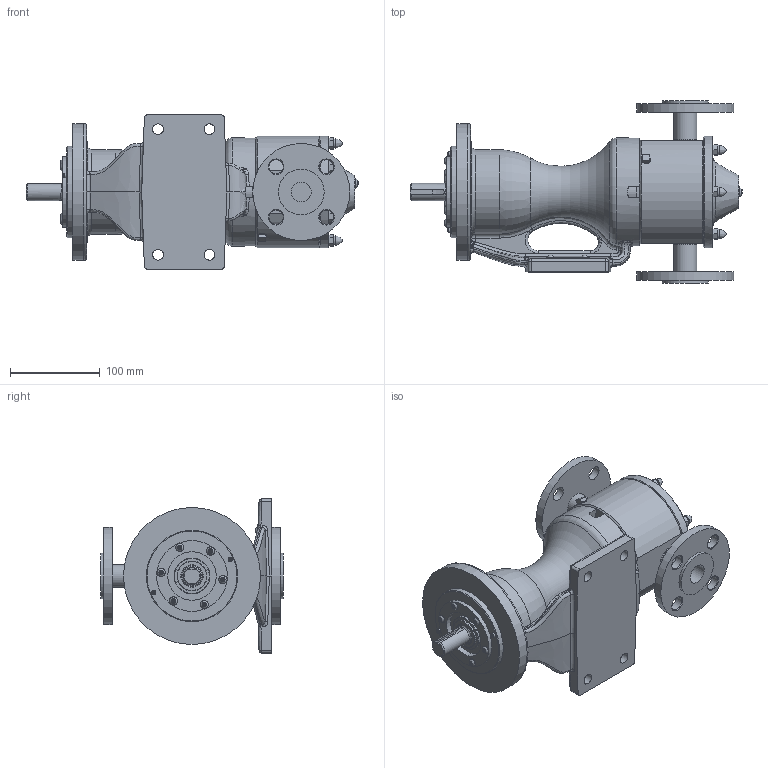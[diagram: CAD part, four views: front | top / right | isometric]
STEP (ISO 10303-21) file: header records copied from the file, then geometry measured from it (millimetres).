
FILE_DESCRIPTION (( 'STEP AP214' ), '1' );
FILE_NAME ('HV-3933-VP.STEP', '2014-04-22T21:25:52', ( '' ), ( '' ), 'SwSTEP 2.0', 'SolidWorks 2012', '' );
FILE_SCHEMA (( 'AUTOMOTIVE_DESIGN' ));
Length unit declared in the file: inch
Products named in the file (1): HV-3933-VP
Bounding box: 369.36 x 203.2 x 171.45 mm (x, y, z)
Volume: 2949624.6 mm3; surface area: 276687.8 mm2
Topology: 1 solids, 1 shells, 692 faces, 1587 edges, 942 vertices
Faces by surface type: plane 253, cone 179, bspline 132, cylinder 99, sphere 18, torus 11
Full cylindrical faces by diameter (mm): 4.826 x2, 6.35 x2, 6.967 x2, 9.169 x6, 9.652 x2, 10.414 x6, 11.1 x1, 11.913 x4, 15.875 x8, 19.037 x1, 22.098 x2, 22.352 x2, 25.4 x2, 26.975 x2, 30.009 x1, 33.325 x1, 39.675 x1, 50.8 x2, 53.848 x1, 72.006 x1, 78.816 x1, 88.9 x1, 101.6 x1, 107.95 x2, 123.952 x1, 152.4 x1
Entity records: 41937 total; most frequent: CARTESIAN_POINT 19286, ORIENTED_EDGE 2856, DIRECTION 2528, EDGE_CURVE 1428, AXIS2_PLACEMENT_3D 1070, VERTEX_POINT 896, EDGE_LOOP 884, FACE_OUTER_BOUND 763
